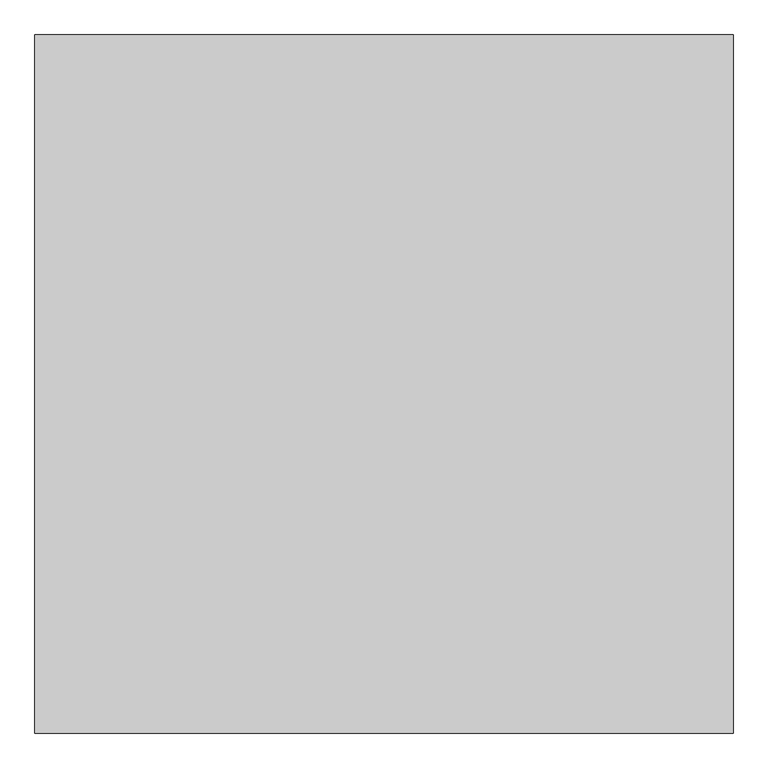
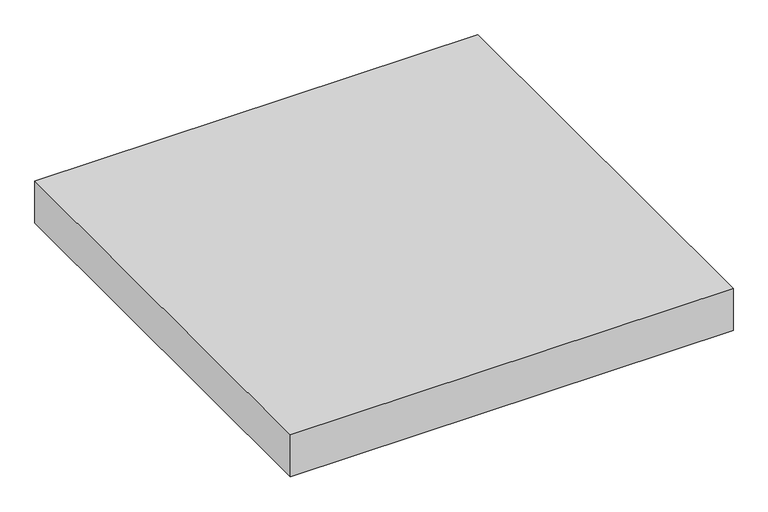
"""IFC4 building model written with IfcOpenShell, lengths in millimetres: proxy geometry, Modelos genéricos 15 : Modelos genéricos 1."""

from ifc_helpers import new_model, si_unit, origin, origin_with_axes, place, context, project, spatial, polyline, outline, extrude, source, transform, mapped, element, save


def generic_models_0452db8b(model_context):
    return source(origin(), model_context, "Body", "SweptSolid", [
        extrude(outline(polyline([(-3422.6026359, 3954.287186), (-3422.6026359, 2454.287186), (-4922.6026359, 2454.287186), (-4922.6026359, 3954.287186), (-3422.6026359, 3954.287186)])), origin_with_axes(), (0.0, 0.0, 1.0), 150.0),
    ])


if __name__ == "__main__":
    model = new_model("IFC4")
    model_context = context("Model", 3, world=origin())
    ifc_project = project(units=[si_unit("LENGTHUNIT", "METRE", prefix="MILLI")], contexts=[model_context])
    site = spatial("IfcSite", under=ifc_project)
    building = spatial("IfcBuilding", under=site)
    placement = place(None, origin())
    generic_models_shape = generic_models_0452db8b(model_context)
    element("IfcBuildingElementProxy", 1, Name="Modelos genéricos 15 : Modelos genéricos 1", ObjectType="Modelos genéricos 15 : Modelos genéricos 1", at=placement, inside=building, context=model_context, shape_type="MappedRepresentation", body=[
        mapped(generic_models_shape, transform((0.0, 0.0, 0.0), x_axis=(1.0, 0.0, 0.0), y_axis=(0.0, 1.0, 0.0), z_axis=(0.0, 0.0, 1.0))),
    ])
    save(model, "model.ifc")
